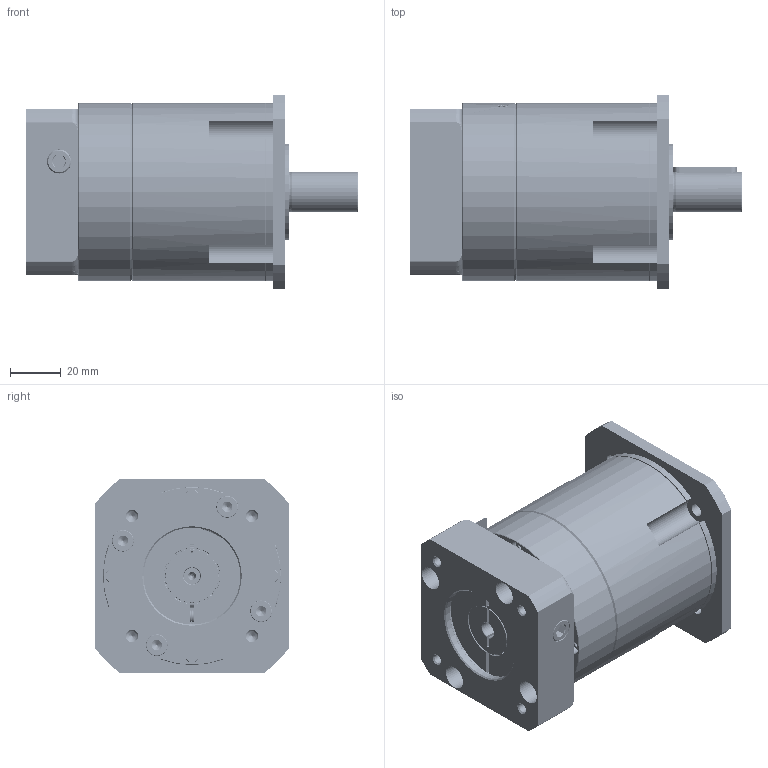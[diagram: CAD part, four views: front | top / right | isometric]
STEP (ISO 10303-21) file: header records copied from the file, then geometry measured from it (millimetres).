
FILE_DESCRIPTION (( 'STEP AP214' ), '1' );
FILE_NAME ('LH-023-005-P01-S01-S-SL-064-A03-0000-0RR-FFF-MMM-S-LL-XXX-AXX-0000-LH-023-005-P01-S01-S-SL-064-A03-0000.step', '2025-02-26T18:28:16', ( '' ), ( '' ), 'SwSTEP 2.0', 'SolidWorks 2019', '' );
FILE_SCHEMA (( 'AUTOMOTIVE_DESIGN' ));
Length unit declared in the file: millimetre
Products named in the file (38): 9000240-000X_9000240-0001; Label Model Family_Onvio Header; 400-00023; 6205 2XCS_DEFAULT; 9003569-000X_9003569-0005; O-Ring 52 x 2_Male Gland 55x52x2.7; interface extension, single stage, LH-010_Black Anodize; 5000700; 9002652-XXXX_9002652-9005; LH-023-005-P01-S01-S-SL-064-A03-0000-0RR-FFF-MMM-S-LL-XXX-AXX-0000-LH-023-005-P01-S01-S-SL-064-A03-0000; ISO 4762 M5 x 16 --- 16 -- 12.9 -- black; 5000789_ISO 4762 M5 x 12 --- 12 -- 12.9 -- black; input shaft, single stage, AH-010, LH-010_i=3, 4, 5; 9001419-X0XX_9001419-0005; 130-02906; Circlip DIN 471 - 25 x 1.2; Circlip DIN 472 - 52 x 2; 5003044-0XXX_i=5, keyway; 4001306_91290A123; O-Ring 47 x 2_Male Gland 47x50x2.8; 5001279; 5003446-X0XX_5003446-9003; 530-02409_Working Thickness 1.0; 4001379; 5000710; 5x5x25 Form A; 500-03109; 9001417-00XX_9001417-0005; Wave spring washer for bearings 42 x 51 x 0.5_Working Thickness 0.8; 5003038-X00X_5003038-1001; 5000792-000X_Solid; 4000390_4000390; collar, 19 mm input, stop shoulder; 5001282; 5001642-00XX_6.35mm [0.25"] ID; EH-47_EH-47 internal retaining ring
Assembly tree (103 placements, depth 5):
  LH-023-005-P01-S01-S-SL-064-A03-0000-0RR-FFF-MMM-S-LL-XXX-AXX-0000-LH-023-005-P01-S01-S-SL-064-A03-0000
    9002652-XXXX_9002652-9005
      5003038-X00X_5003038-1001
      9003569-000X_9003569-0005
        interface extension, single stage, LH-010_Black Anodize
        O-Ring 47 x 2_Male Gland 47x50x2.8
        collar, 19 mm input, stop shoulder
        ISO 4762 M5 x 16 --- 16 -- 12.9 -- black
        530-02409_Working Thickness 1.0
        EH-47_EH-47 internal retaining ring
        9001417-00XX_9001417-0005
          input shaft, single stage, AH-010, LH-010_i=3, 4, 5
          5000710
          400-00023
          Circlip DIN 471 - 25 x 1.2
      9001419-X0XX_9001419-0005
        5003044-0XXX_i=5, keyway
        9000240-000X_9000240-0001
          5000792-000X_Solid
          5000700
          5001279  x14
          5001282  x2
        9000240-000X_9000240-0001
          5000792-000X_Solid
          5000700
          5001279  x14
          5001282  x2
        9000240-000X_9000240-0001
          5000792-000X_Solid
          5000700
          5001279  x14
          5001282  x2
      5x5x25 Form A
      6205 2XCS_DEFAULT  x2
      Circlip DIN 472 - 52 x 2
      Circlip DIN 471 - 25 x 1.2
      Wave spring washer for bearings 42 x 51 x 0.5_Working Thickness 0.8
      O-Ring 52 x 2_Male Gland 55x52x2.7
      4001306_91290A123  x8
      4000390_4000390
    5003446-X0XX_5003446-9003
    5001642-00XX_6.35mm [0.25"] ID
    5000789_ISO 4762 M5 x 12 --- 12 -- 12.9 -- black  x4
    4001379  x2
    Label Model Family_Onvio Header
    130-02906
    500-03109  x4
Bounding box: 130.5 x 76 x 76 mm (x, y, z)
Volume: 330418.9 mm3; surface area: 178658.5 mm2
Topology: 97 solids, 101 shells, 5978 faces, 16027 edges, 10344 vertices
Faces by surface type: cylinder 1779, plane 1397, bspline 1243, cone 785, torus 746, sphere 28
Entity records: 169743 total; most frequent: CARTESIAN_POINT 70227, ORIENTED_EDGE 19348, DIRECTION 14493, EDGE_CURVE 9674, VERTEX_POINT 6296, AXIS2_PLACEMENT_3D 5347, EDGE_LOOP 3890, LINE 3799
